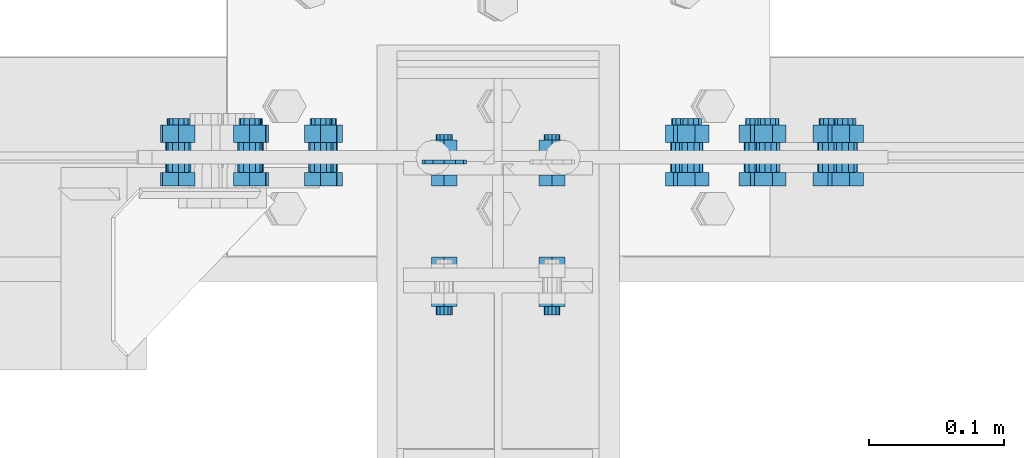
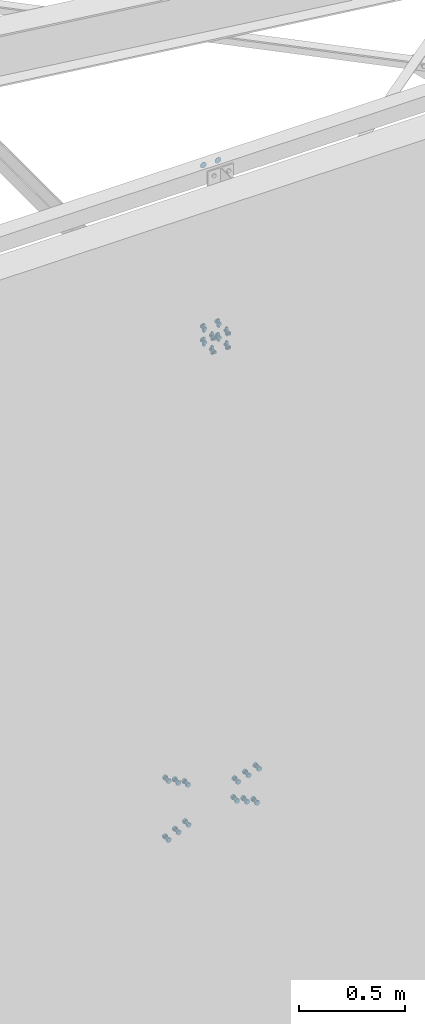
# One storey, part 120 of 3134: 7 mechanical fasteners, 7 elements without a shape of their own.
"""IFC2X3 building model written with IfcOpenShell, lengths in millimetres."""

import ifcopenshell
import ifcopenshell.guid

model = None  # the IFC model being written
_history = None  # IfcOwnerHistory: only IFC2X3 demands one
_inside = {}  # id of a spatial element -> (the spatial element, [elements in it])
_under = {}  # id of a project, library or spatial element -> (it, [spatial elements below it])
_declared = {}  # id of a project -> (the project, [libraries it declares])
_typed = {}  # id of a type object -> (the type object, [elements of that type])
_made_of = {}  # id of a material, layer set ... -> (it, [elements and type objects made of it])


def new_model(schema):
    """Start an empty IFC model of exactly this schema.

    Asked for "IFC4X3", IfcOpenShell would pick the latest addendum, in which some entities
    have other attributes; the version numbers below select the first issue.
    IFC2X3 requires an IfcOwnerHistory on every rooted entity: one is made here for all.
    """
    global model, _history
    if schema == "IFC4X3":
        model = ifcopenshell.file(schema_version=(4, 3, 0, 0))
    else:
        model = ifcopenshell.file(schema=schema)
    _inside.clear()
    _under.clear()
    _declared.clear()
    _typed.clear()
    _made_of.clear()
    _history = None
    if model.schema == "IFC2X3":
        org = make("IfcOrganization", Name="unknown")
        user = make(
            "IfcPersonAndOrganization",
            ThePerson=make("IfcPerson", FamilyName="unknown"),
            TheOrganization=org,
        )
        app = make(
            "IfcApplication",
            ApplicationDeveloper=org,
            Version="unknown",
            ApplicationFullName="unknown",
            ApplicationIdentifier="unknown",
        )
        _history = make(
            "IfcOwnerHistory",
            OwningUser=user,
            OwningApplication=app,
            ChangeAction="ADDED",
            CreationDate=0,
        )
    return model


def make(cls, **values):
    """One entity of the class cls with the attributes given. An attribute that is None is left unset."""
    return model.create_entity(
        cls, **{name: value for name, value in values.items() if value is not None}
    )


def rooted(cls, **values):
    """An entity with a GlobalId (a new one), such as an element, a storey or a relation."""
    return make(cls, GlobalId=ifcopenshell.guid.new(), OwnerHistory=_history, **values)


def si_unit(unit_type, name, prefix=None):
    """IfcSIUnit, for example si_unit("LENGTHUNIT", "METRE", prefix="MILLI")."""
    return make("IfcSIUnit", UnitType=unit_type, Prefix=prefix, Name=name)


def assignment(units):
    """IfcUnitAssignment: the units of a project."""
    return None if units is None else make("IfcUnitAssignment", Units=units)


def point(xyz):
    """IfcCartesianPoint."""
    return None if xyz is None else make("IfcCartesianPoint", Coordinates=xyz)


def direction(xyz):
    """IfcDirection."""
    return None if xyz is None else make("IfcDirection", DirectionRatios=xyz)


def frame(location, z_axis=None, x_axis=None):
    """IfcAxis2Placement3D, a coordinate frame: its origin and axes. An axis left out is left unset."""
    return make(
        "IfcAxis2Placement3D",
        Location=point(location),
        Axis=direction(z_axis),
        RefDirection=direction(x_axis),
    )


def origin_with_axes():
    """The frame at (0, 0, 0) with the z axis (0, 0, 1) and the x axis (1, 0, 0) written out."""
    return frame((0.0, 0.0, 0.0), z_axis=(0.0, 0.0, 1.0), x_axis=(1.0, 0.0, 0.0))


def place(relative_to, where):
    """IfcLocalPlacement: puts the frame where relative to a parent placement (None: the world)."""
    return make(
        "IfcLocalPlacement", PlacementRelTo=relative_to, RelativePlacement=where
    )


def context(
    kind, dimensions, precision=None, world=None, true_north=None, identifier=None
):
    """IfcGeometricRepresentationContext, for example the 3D "Model" context."""
    return make(
        "IfcGeometricRepresentationContext",
        ContextIdentifier=identifier,
        ContextType=kind,
        CoordinateSpaceDimension=dimensions,
        Precision=precision,
        WorldCoordinateSystem=world,
        TrueNorth=true_north,
    )


def subcontext(parent, identifier, kind, view, scale=None):
    """IfcGeometricRepresentationSubContext, for example "Body" below "Model"."""
    return make(
        "IfcGeometricRepresentationSubContext",
        ContextIdentifier=identifier,
        ContextType=kind,
        ParentContext=parent,
        TargetScale=scale,
        TargetView=view,
    )


def project(units=None, contexts=None):
    """IfcProject with its units and contexts."""
    return rooted(
        "IfcProject",
        Name="project",
        RepresentationContexts=contexts,
        UnitsInContext=assignment(units),
    )


def spatial(cls, under=None, at=None, **own):
    """A site, building, storey or space (cls), placed at a placement, below another one or the project."""
    s = rooted(cls, ObjectPlacement=at, **own)
    if under is not None:
        _under.setdefault(under.id(), (under, []))[1].append(s)
    return s


def faces_of(points, faces, orient=None, outer=None):
    """IfcFace entities. A face is a list of loops; a loop is a list of indices into points, from 0.

    orient and outer hold one flag for each loop. By default every Orientation is true, the
    first loop of a face is its IfcFaceOuterBound and the others are IfcFaceBound.
    """
    made = []
    for i, loops in enumerate(faces):
        bounds = []
        for j, loop in enumerate(loops):
            is_outer = j == 0 if outer is None else outer[i][j]
            bounds.append(
                make(
                    "IfcFaceOuterBound" if is_outer else "IfcFaceBound",
                    Bound=make("IfcPolyLoop", Polygon=[points[k] for k in loop]),
                    Orientation=True if orient is None else orient[i][j],
                )
            )
        made.append(make("IfcFace", Bounds=bounds))
    return made


def faceted_brep(points, faces, orient=None, outer=None, voids=None):
    """IfcFacetedBrep: a solid bounded by flat faces; with voids (closed shells), ...WithVoids."""
    shared = [point(p) for p in points]
    hull = make("IfcClosedShell", CfsFaces=faces_of(shared, faces, orient, outer))
    if voids is None:
        return make("IfcFacetedBrep", Outer=hull)
    return make(
        "IfcFacetedBrepWithVoids",
        Outer=hull,
        Voids=[
            make(cls, CfsFaces=faces_of(shared, fs, o, b)) for cls, fs, o, b in voids
        ],
    )


def shape(context_of_items, identifier, shape_type, items):
    """IfcShapeRepresentation: the items that make up one representation, for example the "Body"."""
    return make(
        "IfcShapeRepresentation",
        ContextOfItems=context_of_items,
        RepresentationIdentifier=identifier,
        RepresentationType=shape_type,
        Items=items,
    )


def source(mapping_origin, context_of_items, identifier, shape_type, items):
    """IfcRepresentationMap: a shape defined once, which mapped items show again and again."""
    return make(
        "IfcRepresentationMap",
        MappingOrigin=mapping_origin,
        MappedRepresentation=shape(context_of_items, identifier, shape_type, items),
    )


def transform(
    local_origin,
    x_axis=None,
    y_axis=None,
    z_axis=None,
    scale=None,
    scale2=None,
    scale3=None,
    uniform=True,
):
    """IfcCartesianTransformationOperator3D, or its non-uniform kind. x_axis, y_axis, z_axis: its Axis1, 2, 3."""
    if uniform:
        return make(
            "IfcCartesianTransformationOperator3D",
            Axis1=direction(x_axis),
            Axis2=direction(y_axis),
            LocalOrigin=point(local_origin),
            Scale=scale,
            Axis3=direction(z_axis),
        )
    return make(
        "IfcCartesianTransformationOperator3DnonUniform",
        Axis1=direction(x_axis),
        Axis2=direction(y_axis),
        LocalOrigin=point(local_origin),
        Scale=scale,
        Axis3=direction(z_axis),
        Scale2=scale2,
        Scale3=scale3,
    )


def mapped(mapping_source, mapping_target):
    """IfcMappedItem: shows the shape of a source again, moved by a transform."""
    return make(
        "IfcMappedItem", MappingSource=mapping_source, MappingTarget=mapping_target
    )


def material(Name=None, Category=None):
    """IfcMaterial."""
    return make("IfcMaterial", Name=Name, Category=Category)


def made_of(thing, what):
    """Note that an element or type object is made of a material, layer set ...; save() writes the relation."""
    if what is not None:
        _made_of.setdefault(what.id(), (what, []))[1].append(thing)
    return thing


def type_object(cls, material=None, **own):
    """A type object (cls), such as IfcWallType, which elements share."""
    return made_of(rooted(cls, **own), material)


def element(
    cls,
    number,
    at=None,
    inside=None,
    cuts=None,
    type_object=None,
    material=None,
    context=None,
    identifier="Body",
    shape_type=None,
    held_by="IfcProductDefinitionShape",
    body=None,
    shapes=None,
    **own,
):
    """One element of the class cls, such as IfcWall. Its Tag is "e" and its number.

    at: its placement. inside: the storey or other place that contains it. cuts: it is an
    opening in that element (IfcRelVoidsElement). A single representation is given by context,
    identifier, shape_type and body (its items); several are given by shapes. held_by: the class
    of the entity that holds the representations. save() writes the other relations.
    """
    e = rooted(cls, Tag="e%d" % number, ObjectPlacement=at, **own)
    if body is not None:
        shapes = [shape(context, identifier, shape_type, body)]
    if shapes is not None:
        e.Representation = make(held_by, Representations=shapes)
    if inside is not None:
        _inside.setdefault(inside.id(), (inside, []))[1].append(e)
    if cuts is not None:
        rooted(
            "IfcRelVoidsElement", RelatingBuildingElement=cuts, RelatedOpeningElement=e
        )
    if type_object is not None:
        _typed.setdefault(type_object.id(), (type_object, []))[1].append(e)
    return made_of(e, material)


def aggregate(whole, parts):
    """IfcRelAggregates: a whole, such as a stair, and the parts it consists of."""
    return rooted("IfcRelAggregates", RelatingObject=whole, RelatedObjects=parts)


def save(model, path):
    """Write the relations noted so far, then the file.

    IfcRelAggregates (storeys below a building ...), IfcRelContainedInSpatialStructure (elements
    in a storey), IfcRelDefinesByType, IfcRelAssociatesMaterial and IfcRelDeclares: one each for
    every whole, place, type object, material and project.
    """
    for whole, parts in _under.values():
        aggregate(whole, parts)
    for where, things in _inside.values():
        rooted(
            "IfcRelContainedInSpatialStructure",
            RelatedElements=things,
            RelatingStructure=where,
        )
    for kind, things in _typed.values():
        rooted("IfcRelDefinesByType", RelatedObjects=things, RelatingType=kind)
    for what, things in _made_of.values():
        rooted("IfcRelAssociatesMaterial", RelatedObjects=things, RelatingMaterial=what)
    for by, libraries in _declared.values():
        rooted("IfcRelDeclares", RelatingContext=by, RelatedDefinitions=libraries)
    model.write(path)


model = new_model("IFC2X3")

# Units and contexts
model_context = context("Model", 3, precision=1e-05, world=origin_with_axes())
body_context = subcontext(model_context, "Body", "Model", "MODEL_VIEW")
ifc_project = project(units=[si_unit("LENGTHUNIT", "METRE", prefix="MILLI"), si_unit("AREAUNIT", "SQUARE_METRE"), si_unit("VOLUMEUNIT", "CUBIC_METRE"), si_unit("MASSUNIT", "GRAM", prefix="KILO"), si_unit("TIMEUNIT", "SECOND"), si_unit("PLANEANGLEUNIT", "RADIAN"), si_unit("SOLIDANGLEUNIT", "STERADIAN"), si_unit("THERMODYNAMICTEMPERATUREUNIT", "DEGREE_CELSIUS"), si_unit("LUMINOUSINTENSITYUNIT", "LUMEN")], contexts=[model_context])

# Site, building, storey
site_placement = place(None, origin_with_axes())
site = spatial("IfcSite", under=ifc_project, at=site_placement, CompositionType="ELEMENT")
building_placement = place(site_placement, origin_with_axes())
building = spatial("IfcBuilding", under=site, at=building_placement, Name="Undefined", CompositionType="ELEMENT")
storey_placement = place(building_placement, origin_with_axes())
storey = spatial("IfcBuildingStorey", under=building, at=storey_placement, Name="Undefined", CompositionType="ELEMENT", Elevation=0.0)

# Assembly, mechanical fastener
assembly_1_placement = place(storey_placement, origin_with_axes())
assembly_1 = element("IfcElementAssembly", 1, at=assembly_1_placement, inside=storey, AssemblyPlace="NOTDEFINED", PredefinedType="RIGID_FRAME")
ifc_material = material(Name="8.8")
mechanical_fastener_type = type_object("IfcMechanicalFastenerType", Name="Bolt assembly")
shared_shape_1 = source(origin_with_axes(), body_context, "Body", "Brep", [
    faceted_brep([(16.5, -3.0, 0.0), (14.289419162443, -3.0, 8.25000000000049), (8.24999999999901, -3.0, 14.2894191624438), (-1.70995436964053e-12, -3.0, 16.5), (-8.25000000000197, -3.0, 14.2894191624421), (-14.2894191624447, -3.0, 8.24999999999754), (-16.5, -3.0, -3.41990873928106e-12), (-14.2894191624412, -3.0, -8.25000000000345), (-8.24999999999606, -3.0, -14.2894191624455), (5.11154442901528e-12, -3.0, -16.5), (8.25000000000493, -3.0, -14.2894191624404), (14.2894191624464, -3.0, -8.24999999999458), (14.2894191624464, 0.1, -8.24999999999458), (8.25000000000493, 0.1, -14.2894191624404), (5.11154442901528e-12, 0.1, -16.5), (-8.24999999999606, 0.1, -14.2894191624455), (-14.2894191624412, 0.1, -8.25000000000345), (-16.5, 0.1, -3.41990873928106e-12), (-14.2894191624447, 0.1, 8.24999999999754), (-8.25000000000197, 0.1, 14.2894191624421), (-1.70995436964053e-12, 0.1, 16.5), (8.24999999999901, 0.1, 14.2894191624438), (14.289419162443, 0.1, 8.25000000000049), (16.5, 0.1, 0.0)], [[[0, 1, 2, 3, 4, 5, 6, 7, 8, 9, 10, 11]], [[12, 13, 14, 15, 16, 17, 18, 19, 20, 21, 22, 23]], [[0, 23, 22, 1]], [[1, 22, 21, 2]], [[2, 21, 20, 3]], [[3, 20, 19, 4]], [[4, 19, 18, 5]], [[5, 18, 17, 6]], [[6, 17, 16, 7]], [[7, 16, 15, 8]], [[8, 15, 14, 9]], [[9, 14, 13, 10]], [[10, 13, 12, 11]], [[11, 12, 23, 0]]]),
])
mechanical_fastener_1_placement = place(assembly_1_placement, frame((50037.5, -2.0, 5934.99639945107), z_axis=(-1.0, 0.0, 0.0), x_axis=(0.0, 0.0, 1.0)))
mechanical_fastener_1 = element("IfcMechanicalFastener", 2, at=mechanical_fastener_1_placement, type_object=mechanical_fastener_type, material=ifc_material, Name="Bolt assembly", NominalDiameter=30.0, NominalLength=3.0, context=body_context, shape_type="MappedRepresentation", body=[
    mapped(shared_shape_1, transform((0.0, 0.0, -40.0))),
    mapped(shared_shape_1, transform((0.0, 0.0, 40.0))),
])
aggregate(assembly_1, [mechanical_fastener_1])

assembly_2_placement = place(storey_placement, origin_with_axes())
assembly_2 = element("IfcElementAssembly", 3, at=assembly_2_placement, inside=storey, Name="300", AssemblyPlace="NOTDEFINED", PredefinedType="RIGID_FRAME")
shared_shape_2 = source(origin_with_axes(), body_context, "Body", "Brep", [
    faceted_brep([(10.9696551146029, -21.0500000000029, 0.0), (5.48482755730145, -21.0500000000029, 9.5), (-5.48482755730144, -21.0500000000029, 9.5), (-10.9696551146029, -21.0500000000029, 1.34339530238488e-15), (-5.48482755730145, -21.0500000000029, -9.5), (5.48482755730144, -21.0500000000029, -9.50000000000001), (5.48482755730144, -13.0500000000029, -9.50000000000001), (-5.48482755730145, -13.0500000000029, -9.5), (-10.9696551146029, -13.0500000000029, 1.34339530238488e-15), (-5.48482755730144, -13.0500000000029, 9.5), (5.48482755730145, -13.0500000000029, 9.5), (10.9696551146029, -13.0500000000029, 0.0), (6.0, -13.0500000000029, 0.0), (5.19615242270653, -13.0500000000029, 3.00000000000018), (2.99999999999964, -13.0500000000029, 5.19615242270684), (-6.21801588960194e-13, -13.0500000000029, 6.0), (-3.00000000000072, -13.0500000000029, 5.19615242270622), (-5.19615242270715, -13.0500000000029, 2.9999999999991), (-6.0, -13.0500000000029, -1.24360317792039e-12), (-5.19615242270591, -13.0500000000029, -3.00000000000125), (-2.99999999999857, -13.0500000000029, -5.19615242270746), (1.85874342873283e-12, -13.0500000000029, -6.0), (3.00000000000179, -13.0500000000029, -5.1961524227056), (5.19615242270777, -13.0500000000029, -2.99999999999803), (5.19615242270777, 16.9499999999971, -2.99999999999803), (3.00000000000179, 16.9499999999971, -5.1961524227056), (1.85874342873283e-12, 16.9499999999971, -6.0), (-2.99999999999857, 16.9499999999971, -5.19615242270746), (-5.19615242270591, 16.9499999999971, -3.00000000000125), (-6.0, 16.9499999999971, -1.24360317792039e-12), (-5.19615242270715, 16.9499999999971, 2.9999999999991), (-3.00000000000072, 16.9499999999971, 5.19615242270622), (-6.21801588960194e-13, 16.9499999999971, 6.0), (2.99999999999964, 16.9499999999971, 5.19615242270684), (5.19615242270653, 16.9499999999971, 3.00000000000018), (6.0, 16.9499999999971, 0.0), (10.9696551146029, 3.04999995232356, 0.0), (5.48482755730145, 3.04999995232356, 9.5), (-5.48482755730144, 3.04999995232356, 9.5), (-10.9696551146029, 3.04999995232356, 1.34339530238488e-15), (-5.48482755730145, 3.04999995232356, -9.5), (5.48482755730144, 3.04999995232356, -9.50000000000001), (5.48482755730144, 13.0499999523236, -9.50000000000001), (-5.48482755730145, 13.0499999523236, -9.5), (-10.9696551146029, 13.0499999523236, 1.34339530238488e-15), (-5.48482755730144, 13.0499999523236, 9.5), (5.48482755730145, 13.0499999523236, 9.5), (10.9696551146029, 13.0499999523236, 0.0)], [[[0, 1, 2, 3, 4, 5]], [[6, 7, 8, 9, 10, 11]], [[0, 11, 10, 1]], [[1, 10, 9, 2]], [[2, 9, 8, 3]], [[3, 8, 7, 4]], [[4, 7, 6, 5]], [[5, 6, 11, 0]], [[12, 13, 14, 15, 16, 17, 18, 19, 20, 21, 22, 23]], [[24, 25, 26, 27, 28, 29, 30, 31, 32, 33, 34, 35]], [[12, 35, 34, 13]], [[13, 34, 33, 14]], [[14, 33, 32, 15]], [[15, 32, 31, 16]], [[16, 31, 30, 17]], [[17, 30, 29, 18]], [[18, 29, 28, 19]], [[19, 28, 27, 20]], [[20, 27, 26, 21]], [[21, 26, 25, 22]], [[22, 25, 24, 23]], [[23, 24, 35, 12]], [[36, 37, 38, 39, 40, 41]], [[42, 43, 44, 45, 46, 47]], [[36, 47, 46, 37]], [[37, 46, 45, 38]], [[38, 45, 44, 39]], [[39, 44, 43, 40]], [[40, 43, 42, 41]], [[41, 42, 47, 36]]]),
    faceted_brep([(26.0, -12.9500000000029, 0.0), (25.4671567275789, -12.9500000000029, 2.6787840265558), (23.9497474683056, -12.9500000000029, 4.94974746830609), (21.6787840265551, -12.9500000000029, 6.46715672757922), (-19.0000000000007, -12.9500000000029, 7.0), (-22.5000000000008, -12.9500000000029, 6.06217782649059), (-25.0621778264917, -12.9500000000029, 3.49999999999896), (-26.0, -12.9500000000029, -1.45087037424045e-12), (-25.0621778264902, -12.9500000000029, -3.50000000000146), (-22.4999999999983, -12.9500000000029, -6.06217782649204), (-18.9999999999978, -12.9500000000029, -7.0), (19.0000000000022, -12.9500000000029, -7.0), (22.5000000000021, -12.9500000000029, -6.06217782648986), (25.0621778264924, -12.9500000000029, -3.4999999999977), (26.0, -2.95000000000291, 0.0), (25.0621778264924, -2.95000000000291, -3.4999999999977), (22.5000000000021, -2.95000000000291, -6.06217782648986), (19.0000000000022, -2.95000000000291, -7.0), (-18.9999999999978, -2.95000000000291, -7.0), (-22.4999999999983, -2.95000000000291, -6.06217782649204), (-25.0621778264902, -2.95000000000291, -3.50000000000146), (-26.0, -2.95000000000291, -1.45087037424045e-12), (-25.0621778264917, -2.95000000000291, 3.49999999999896), (-22.5000000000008, -2.95000000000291, 6.06217782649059), (-19.0000000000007, -2.95000000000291, 7.0), (21.6787840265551, -2.95000000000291, 6.46715672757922), (23.9497474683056, -2.95000000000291, 4.94974746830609), (25.4671567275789, -2.95000000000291, 2.6787840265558), (7.0, -3.14999995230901, 0.0), (6.06217782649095, -3.14999995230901, 3.50000000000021), (3.49999999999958, -3.14999995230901, 6.06217782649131), (-7.25435187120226e-13, -3.14999995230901, 7.0), (-3.50000000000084, -3.14999995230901, 6.06217782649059), (-6.06217782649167, -3.14999995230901, 3.49999999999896), (-7.0, -3.14999995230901, -1.45087037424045e-12), (-6.06217782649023, -3.14999995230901, -3.50000000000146), (-3.49999999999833, -3.14999995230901, -6.06217782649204), (2.1685340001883e-12, -3.14999995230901, -7.0), (3.50000000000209, -3.14999995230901, -6.06217782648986), (6.0621778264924, -3.14999995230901, -3.4999999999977), (6.0621778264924, 3.04999995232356, -3.4999999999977), (3.50000000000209, 3.04999995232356, -6.06217782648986), (2.1685340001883e-12, 3.04999995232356, -7.0), (-3.49999999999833, 3.04999995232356, -6.06217782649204), (-6.06217782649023, 3.04999995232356, -3.50000000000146), (-7.0, 3.04999995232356, -1.45087037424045e-12), (-6.06217782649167, 3.04999995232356, 3.49999999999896), (-3.50000000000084, 3.04999995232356, 6.06217782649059), (-7.25435187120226e-13, 3.04999995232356, 7.0), (3.49999999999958, 3.04999995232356, 6.06217782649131), (6.06217782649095, 3.04999995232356, 3.50000000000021), (7.0, 3.04999995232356, 0.0)], [[[0, 1, 2, 3, 4, 5, 6, 7, 8, 9, 10, 11, 12, 13]], [[14, 15, 16, 17, 18, 19, 20, 21, 22, 23, 24, 25, 26, 27]], [[0, 14, 27, 1]], [[1, 27, 26, 2]], [[2, 26, 25, 3]], [[3, 25, 24, 4]], [[4, 24, 23, 5]], [[5, 23, 22, 6]], [[6, 22, 21, 7]], [[7, 21, 20, 8]], [[8, 20, 19, 9]], [[9, 19, 18, 10]], [[10, 18, 17, 11]], [[11, 17, 16, 12]], [[12, 16, 15, 13]], [[13, 15, 14, 0]], [[28, 29, 30, 31, 32, 33, 34, 35, 36, 37, 38, 39]], [[40, 41, 42, 43, 44, 45, 46, 47, 48, 49, 50, 51]], [[28, 51, 50, 29]], [[29, 50, 49, 30]], [[30, 49, 48, 31]], [[31, 48, 47, 32]], [[32, 47, 46, 33]], [[33, 46, 45, 34]], [[34, 45, 44, 35]], [[35, 44, 43, 36]], [[36, 43, 42, 37]], [[37, 42, 41, 38]], [[38, 41, 40, 39]], [[39, 40, 51, 28]]]),
])
mechanical_fastener_2_placement = place(assembly_2_placement, frame((50037.4999999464, 0.0, 4996.39642111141), z_axis=(1.0, 0.0, 0.0), x_axis=(0.0, 0.0, -1.0)))
mechanical_fastener_2 = element("IfcMechanicalFastener", 4, at=mechanical_fastener_2_placement, type_object=mechanical_fastener_type, material=ifc_material, Name="Bolt assembly", NominalDiameter=12.0, NominalLength=30.0, context=body_context, shape_type="MappedRepresentation", body=[
    mapped(shared_shape_2, transform((0.0, 0.0, -40.0))),
    mapped(shared_shape_2, transform((80.0, 0.0, -40.0))),
    mapped(shared_shape_2, transform((0.0, 0.0, 40.0))),
    mapped(shared_shape_2, transform((80.0, 0.0, 40.0))),
])
aggregate(assembly_2, [mechanical_fastener_2])

assembly_3_placement = place(storey_placement, origin_with_axes())
assembly_3 = element("IfcElementAssembly", 5, at=assembly_3_placement, inside=storey, AssemblyPlace="NOTDEFINED", PredefinedType="RIGID_FRAME")
shared_shape_3 = source(origin_with_axes(), body_context, "Body", "Brep", [
    faceted_brep([(10.9696551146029, -18.0, 0.0), (5.48482755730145, -18.0, 9.5), (-5.48482755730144, -18.0, 9.5), (-10.9696551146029, -18.0, 1.34339530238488e-15), (-5.48482755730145, -18.0, -9.5), (5.48482755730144, -18.0, -9.50000000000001), (5.48482755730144, -10.0, -9.50000000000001), (-5.48482755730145, -10.0, -9.5), (-10.9696551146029, -10.0, 1.34339530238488e-15), (-5.48482755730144, -10.0, 9.5), (5.48482755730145, -10.0, 9.5), (10.9696551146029, -10.0, 0.0), (6.0, -10.0, 0.0), (5.19615242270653, -10.0, 3.00000000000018), (2.99999999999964, -10.0, 5.19615242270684), (-6.21801588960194e-13, -10.0, 6.0), (-3.00000000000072, -10.0, 5.19615242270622), (-5.19615242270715, -10.0, 2.9999999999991), (-6.0, -10.0, -1.24360317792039e-12), (-5.19615242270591, -10.0, -3.00000000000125), (-2.99999999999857, -10.0, -5.19615242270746), (1.85874342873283e-12, -10.0, -6.0), (3.00000000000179, -10.0, -5.1961524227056), (5.19615242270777, -10.0, -2.99999999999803), (5.19615242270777, 24.9999999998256, -2.99999999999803), (3.00000000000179, 24.9999999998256, -5.1961524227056), (1.85874342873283e-12, 24.9999999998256, -6.0), (-2.99999999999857, 24.9999999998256, -5.19615242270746), (-5.19615242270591, 24.9999999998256, -3.00000000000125), (-6.0, 24.9999999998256, -1.24360317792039e-12), (-5.19615242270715, 24.9999999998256, 2.9999999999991), (-3.00000000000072, 24.9999999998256, 5.19615242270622), (-6.21801588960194e-13, 24.9999999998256, 6.0), (2.99999999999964, 24.9999999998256, 5.19615242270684), (5.19615242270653, 24.9999999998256, 3.00000000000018), (6.0, 24.9999999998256, 0.0), (10.9696551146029, 8.5, 0.0), (5.48482755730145, 8.5, 9.5), (-5.48482755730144, 8.5, 9.5), (-10.9696551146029, 8.5, 1.34339530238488e-15), (-5.48482755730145, 8.5, -9.5), (5.48482755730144, 8.5, -9.50000000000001), (5.48482755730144, 18.5, -9.50000000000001), (-5.48482755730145, 18.5, -9.5), (-10.9696551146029, 18.5, 1.34339530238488e-15), (-5.48482755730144, 18.5, 9.5), (5.48482755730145, 18.5, 9.5), (10.9696551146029, 18.5, 0.0)], [[[0, 1, 2, 3, 4, 5]], [[6, 7, 8, 9, 10, 11]], [[0, 11, 10, 1]], [[1, 10, 9, 2]], [[2, 9, 8, 3]], [[3, 8, 7, 4]], [[4, 7, 6, 5]], [[5, 6, 11, 0]], [[12, 13, 14, 15, 16, 17, 18, 19, 20, 21, 22, 23]], [[24, 25, 26, 27, 28, 29, 30, 31, 32, 33, 34, 35]], [[12, 35, 34, 13]], [[13, 34, 33, 14]], [[14, 33, 32, 15]], [[15, 32, 31, 16]], [[16, 31, 30, 17]], [[17, 30, 29, 18]], [[18, 29, 28, 19]], [[19, 28, 27, 20]], [[20, 27, 26, 21]], [[21, 26, 25, 22]], [[22, 25, 24, 23]], [[23, 24, 35, 12]], [[36, 37, 38, 39, 40, 41]], [[42, 43, 44, 45, 46, 47]], [[36, 47, 46, 37]], [[37, 46, 45, 38]], [[38, 45, 44, 39]], [[39, 44, 43, 40]], [[40, 43, 42, 41]], [[41, 42, 47, 36]]]),
    faceted_brep([(7.0, -0.1, 0.0), (6.06217782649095, -0.1, 3.50000000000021), (3.49999999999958, -0.1, 6.06217782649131), (-7.25435187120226e-13, -0.1, 7.0), (-3.50000000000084, -0.1, 6.06217782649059), (-6.06217782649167, -0.1, 3.49999999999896), (-7.0, -0.1, -1.45087037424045e-12), (-6.06217782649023, -0.1, -3.50000000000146), (-3.49999999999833, -0.1, -6.06217782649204), (2.1685340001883e-12, -0.1, -7.0), (3.50000000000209, -0.1, -6.06217782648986), (6.0621778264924, -0.1, -3.4999999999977), (6.0621778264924, 8.5, -3.4999999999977), (3.50000000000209, 8.5, -6.06217782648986), (2.1685340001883e-12, 8.5, -7.0), (-3.49999999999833, 8.5, -6.06217782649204), (-6.06217782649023, 8.5, -3.50000000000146), (-7.0, 8.5, -1.45087037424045e-12), (-6.06217782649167, 8.5, 3.49999999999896), (-3.50000000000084, 8.5, 6.06217782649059), (-7.25435187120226e-13, 8.5, 7.0), (3.49999999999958, 8.5, 6.06217782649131), (6.06217782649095, 8.5, 3.50000000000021), (7.0, 8.5, 0.0), (26.0, -9.9, 0.0), (25.4671567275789, -9.9, 2.6787840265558), (23.9497474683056, -9.9, 4.94974746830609), (21.6787840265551, -9.9, 6.46715672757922), (-19.0000000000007, -9.9, 7.0), (-22.5000000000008, -9.9, 6.06217782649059), (-25.0621778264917, -9.9, 3.49999999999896), (-26.0, -9.9, -1.45087037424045e-12), (-25.0621778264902, -9.9, -3.50000000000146), (-22.4999999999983, -9.9, -6.06217782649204), (-18.9999999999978, -9.9, -7.0), (19.0000000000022, -9.9, -7.0), (22.5000000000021, -9.9, -6.06217782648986), (25.0621778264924, -9.9, -3.4999999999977), (26.0, 0.0999999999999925, 0.0), (25.0621778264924, 0.0999999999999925, -3.4999999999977), (22.5000000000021, 0.0999999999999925, -6.06217782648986), (19.0000000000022, 0.0999999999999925, -7.0), (-18.9999999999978, 0.0999999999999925, -7.0), (-22.4999999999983, 0.0999999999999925, -6.06217782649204), (-25.0621778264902, 0.0999999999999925, -3.50000000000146), (-26.0, 0.0999999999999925, -1.45087037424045e-12), (-25.0621778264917, 0.0999999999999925, 3.49999999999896), (-22.5000000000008, 0.0999999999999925, 6.06217782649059), (-19.0000000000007, 0.0999999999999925, 7.0), (21.6787840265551, 0.0999999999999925, 6.46715672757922), (23.9497474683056, 0.0999999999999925, 4.94974746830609), (25.4671567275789, 0.0999999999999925, 2.6787840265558)], [[[0, 1, 2, 3, 4, 5, 6, 7, 8, 9, 10, 11]], [[12, 13, 14, 15, 16, 17, 18, 19, 20, 21, 22, 23]], [[0, 23, 22, 1]], [[1, 22, 21, 2]], [[2, 21, 20, 3]], [[3, 20, 19, 4]], [[4, 19, 18, 5]], [[5, 18, 17, 6]], [[6, 17, 16, 7]], [[7, 16, 15, 8]], [[8, 15, 14, 9]], [[9, 14, 13, 10]], [[10, 13, 12, 11]], [[11, 12, 23, 0]], [[24, 25, 26, 27, 28, 29, 30, 31, 32, 33, 34, 35, 36, 37]], [[38, 39, 40, 41, 42, 43, 44, 45, 46, 47, 48, 49, 50, 51]], [[24, 38, 51, 25]], [[25, 51, 50, 26]], [[26, 50, 49, 27]], [[27, 49, 48, 28]], [[28, 48, 47, 29]], [[29, 47, 46, 30]], [[30, 46, 45, 31]], [[31, 45, 44, 32]], [[32, 44, 43, 33]], [[33, 43, 42, 34]], [[34, 42, 41, 35]], [[35, 41, 40, 36]], [[36, 40, 39, 37]], [[37, 39, 38, 24]]]),
])
mechanical_fastener_3_placement = place(assembly_3_placement, frame((50037.4999999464, -92.0, 4996.39642111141), z_axis=(-1.0, 0.0, 0.0), x_axis=(0.0, 0.0, -1.0)))
mechanical_fastener_3 = element("IfcMechanicalFastener", 6, at=mechanical_fastener_3_placement, type_object=mechanical_fastener_type, material=ifc_material, Name="Bolt assembly", NominalDiameter=12.0, NominalLength=35.0, context=body_context, shape_type="MappedRepresentation", body=[
    mapped(shared_shape_3, transform((0.0, 0.0, -40.0))),
    mapped(shared_shape_3, transform((80.0, 0.0, -40.0))),
    mapped(shared_shape_3, transform((0.0, 0.0, 40.0))),
    mapped(shared_shape_3, transform((80.0, 0.0, 40.0))),
])
aggregate(assembly_3, [mechanical_fastener_3])

assembly_4_placement = place(storey_placement, origin_with_axes())
assembly_4 = element("IfcElementAssembly", 7, at=assembly_4_placement, inside=storey, AssemblyPlace="NOTDEFINED", PredefinedType="RIGID_FRAME")
shared_shape_4 = source(origin_with_axes(), body_context, "Body", "Brep", [
    faceted_brep([(13.856406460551, -21.0000017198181, 0.0), (6.92820323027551, -21.0000017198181, 12.0), (-6.92820323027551, -21.0000017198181, 12.0), (-13.856406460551, -21.0000017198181, 1.69692038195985e-15), (-6.92820323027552, -21.0000017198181, -12.0), (6.9282032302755, -21.0000017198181, -12.0), (6.9282032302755, -11.0000017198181, -12.0), (-6.92820323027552, -11.0000017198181, -12.0), (-13.856406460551, -11.0000017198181, 1.69692038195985e-15), (-6.92820323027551, -11.0000017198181, 12.0), (6.92820323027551, -11.0000017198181, 12.0), (13.856406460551, -11.0000017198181, 0.0), (8.0, -11.0000017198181, 0.0), (6.92820323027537, -11.0000017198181, 4.00000000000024), (3.99999999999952, -11.0000017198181, 6.92820323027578), (-8.29068785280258e-13, -11.0000017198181, 8.0), (-4.00000000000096, -11.0000017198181, 6.92820323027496), (-6.9282032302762, -11.0000017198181, 3.99999999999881), (-8.0, -11.0000017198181, -1.65813757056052e-12), (-6.92820323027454, -11.0000017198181, -4.00000000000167), (-3.99999999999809, -11.0000017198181, -6.92820323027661), (2.47832457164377e-12, -11.0000017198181, -8.0), (4.00000000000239, -11.0000017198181, -6.92820323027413), (6.92820323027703, -11.0000017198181, -3.99999999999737), (6.92820323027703, 29.0, -3.99999999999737), (4.00000000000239, 29.0, -6.92820323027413), (2.47832457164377e-12, 29.0, -8.0), (-3.99999999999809, 29.0, -6.92820323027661), (-6.92820323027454, 29.0, -4.00000000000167), (-8.0, 29.0, -1.65813757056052e-12), (-6.9282032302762, 29.0, 3.99999999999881), (-4.00000000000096, 29.0, 6.92820323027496), (-8.29068785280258e-13, 29.0, 8.0), (3.99999999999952, 29.0, 6.92820323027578), (6.92820323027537, 29.0, 4.00000000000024), (8.0, 29.0, 0.0), (13.856406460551, 10.9999982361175, 0.0), (6.92820323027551, 10.9999982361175, 12.0), (-6.92820323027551, 10.9999982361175, 12.0), (-13.856406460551, 10.9999982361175, 1.69692038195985e-15), (-6.92820323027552, 10.9999982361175, -12.0), (6.9282032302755, 10.9999982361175, -12.0), (6.9282032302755, 23.9999999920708, -12.0), (-6.92820323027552, 23.9999999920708, -12.0), (-13.856406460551, 23.9999999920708, 1.69692038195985e-15), (-6.92820323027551, 23.9999999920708, 12.0), (6.92820323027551, 23.9999999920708, 12.0), (13.856406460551, 23.9999999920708, 0.0)], [[[0, 1, 2, 3, 4, 5]], [[6, 7, 8, 9, 10, 11]], [[0, 11, 10, 1]], [[1, 10, 9, 2]], [[2, 9, 8, 3]], [[3, 8, 7, 4]], [[4, 7, 6, 5]], [[5, 6, 11, 0]], [[12, 13, 14, 15, 16, 17, 18, 19, 20, 21, 22, 23]], [[24, 25, 26, 27, 28, 29, 30, 31, 32, 33, 34, 35]], [[12, 35, 34, 13]], [[13, 34, 33, 14]], [[14, 33, 32, 15]], [[15, 32, 31, 16]], [[16, 31, 30, 17]], [[17, 30, 29, 18]], [[18, 29, 28, 19]], [[19, 28, 27, 20]], [[20, 27, 26, 21]], [[21, 26, 25, 22]], [[22, 25, 24, 23]], [[23, 24, 35, 12]], [[36, 37, 38, 39, 40, 41]], [[42, 43, 44, 45, 46, 47]], [[36, 47, 46, 37]], [[37, 46, 45, 38]], [[38, 45, 44, 39]], [[39, 44, 43, 40]], [[40, 43, 42, 41]], [[41, 42, 47, 36]]]),
    faceted_brep([(9.0, -10.9000017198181, 0.0), (7.79422863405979, -10.9000017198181, 4.50000000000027), (4.49999999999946, -10.9000017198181, 7.79422863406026), (-9.3270238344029e-13, -10.9000017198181, 9.0), (-4.50000000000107, -10.9000017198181, 7.79422863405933), (-7.79422863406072, -10.9000017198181, 4.49999999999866), (-9.0, -10.9000017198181, -1.86540476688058e-12), (-7.79422863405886, -10.9000017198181, -4.50000000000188), (-4.49999999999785, -10.9000017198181, -7.79422863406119), (2.78811514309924e-12, -10.9000017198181, -9.0), (4.50000000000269, -10.9000017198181, -7.7942286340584), (7.79422863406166, -10.9000017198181, -4.49999999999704), (7.79422863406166, -3.9, -4.49999999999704), (4.50000000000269, -3.9, -7.7942286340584), (2.78811514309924e-12, -3.9, -9.0), (-4.49999999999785, -3.9, -7.79422863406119), (-7.79422863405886, -3.9, -4.50000000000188), (-9.0, -3.9, -1.86540476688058e-12), (-7.79422863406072, -3.9, 4.49999999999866), (-4.50000000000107, -3.9, 7.79422863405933), (-9.3270238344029e-13, -3.9, 9.0), (4.49999999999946, -3.9, 7.79422863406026), (7.79422863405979, -3.9, 4.50000000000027), (9.0, -3.9, 0.0), (9.0, 3.9, 0.0), (7.79422863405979, 3.9, 4.50000000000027), (4.49999999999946, 3.9, 7.79422863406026), (-9.3270238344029e-13, 3.9, 9.0), (-4.50000000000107, 3.9, 7.79422863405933), (-7.79422863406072, 3.9, 4.49999999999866), (-9.0, 3.9, -1.86540476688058e-12), (-7.79422863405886, 3.9, -4.50000000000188), (-4.49999999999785, 3.9, -7.79422863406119), (2.78811514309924e-12, 3.9, -9.0), (4.50000000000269, 3.9, -7.7942286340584), (7.79422863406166, 3.9, -4.49999999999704), (7.79422863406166, 10.9999982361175, -4.49999999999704), (4.50000000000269, 10.9999982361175, -7.7942286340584), (2.78811514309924e-12, 10.9999982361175, -9.0), (-4.49999999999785, 10.9999982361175, -7.79422863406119), (-7.79422863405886, 10.9999982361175, -4.50000000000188), (-9.0, 10.9999982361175, -1.86540476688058e-12), (-7.79422863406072, 10.9999982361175, 4.49999999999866), (-4.50000000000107, 10.9999982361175, 7.79422863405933), (-9.3270238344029e-13, 10.9999982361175, 9.0), (4.49999999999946, 10.9999982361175, 7.79422863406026), (7.79422863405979, 10.9999982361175, 4.50000000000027), (9.0, 10.9999982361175, 0.0), (9.0, -4.99999990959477, 0.0), (7.79422863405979, -4.99999990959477, 4.50000000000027), (4.49999999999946, -4.99999990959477, 7.79422863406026), (-9.3270238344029e-13, -4.99999990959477, 9.0), (-4.50000000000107, -4.99999990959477, 7.79422863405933), (-7.79422863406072, -4.99999990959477, 4.49999999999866), (-9.0, -4.99999990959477, -1.86540476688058e-12), (-7.79422863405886, -4.99999990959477, -4.50000000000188), (-4.49999999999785, -4.99999990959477, -7.79422863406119), (2.78811514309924e-12, -4.99999990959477, -9.0), (4.50000000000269, -4.99999990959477, -7.7942286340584), (7.79422863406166, -4.99999990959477, -4.49999999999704), (7.79422863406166, 4.99999989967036, -4.49999999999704), (4.50000000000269, 4.99999989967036, -7.7942286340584), (2.78811514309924e-12, 4.99999989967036, -9.0), (-4.49999999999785, 4.99999989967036, -7.79422863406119), (-7.79422863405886, 4.99999989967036, -4.50000000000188), (-9.0, 4.99999989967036, -1.86540476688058e-12), (-7.79422863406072, 4.99999989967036, 4.49999999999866), (-4.50000000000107, 4.99999989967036, 7.79422863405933), (-9.3270238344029e-13, 4.99999989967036, 9.0), (4.49999999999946, 4.99999989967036, 7.79422863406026), (7.79422863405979, 4.99999989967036, 4.50000000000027), (9.0, 4.99999989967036, 0.0)], [[[0, 1, 2, 3, 4, 5, 6, 7, 8, 9, 10, 11]], [[12, 13, 14, 15, 16, 17, 18, 19, 20, 21, 22, 23]], [[0, 23, 22, 1]], [[1, 22, 21, 2]], [[2, 21, 20, 3]], [[3, 20, 19, 4]], [[4, 19, 18, 5]], [[5, 18, 17, 6]], [[6, 17, 16, 7]], [[7, 16, 15, 8]], [[8, 15, 14, 9]], [[9, 14, 13, 10]], [[10, 13, 12, 11]], [[11, 12, 23, 0]], [[24, 25, 26, 27, 28, 29, 30, 31, 32, 33, 34, 35]], [[36, 37, 38, 39, 40, 41, 42, 43, 44, 45, 46, 47]], [[24, 47, 46, 25]], [[25, 46, 45, 26]], [[26, 45, 44, 27]], [[27, 44, 43, 28]], [[28, 43, 42, 29]], [[29, 42, 41, 30]], [[30, 41, 40, 31]], [[31, 40, 39, 32]], [[32, 39, 38, 33]], [[33, 38, 37, 34]], [[34, 37, 36, 35]], [[35, 36, 47, 24]], [[48, 49, 50, 51, 52, 53, 54, 55, 56, 57, 58, 59]], [[60, 61, 62, 63, 64, 65, 66, 67, 68, 69, 70, 71]], [[48, 71, 70, 49]], [[49, 70, 69, 50]], [[50, 69, 68, 51]], [[51, 68, 67, 52]], [[52, 67, 66, 53]], [[53, 66, 65, 54]], [[54, 65, 64, 55]], [[55, 64, 63, 56]], [[56, 63, 62, 57]], [[57, 62, 61, 58]], [[58, 61, 60, 59]], [[59, 60, 71, 48]]]),
])
mechanical_fastener_4_placement = place(assembly_4_placement, frame((50174.1608453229, 0.0, 2204.54455813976), z_axis=(0.412246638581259, 0.0, 0.911072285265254), x_axis=(0.911072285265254, 0.0, -0.412246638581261)))
mechanical_fastener_4 = element("IfcMechanicalFastener", 8, at=mechanical_fastener_4_placement, type_object=mechanical_fastener_type, material=ifc_material, Name="Bolt assembly", NominalDiameter=16.0, NominalLength=40.0, context=body_context, shape_type="MappedRepresentation", body=[
    mapped(shared_shape_4, transform((0.0, 0.0, 0.0))),
    mapped(shared_shape_4, transform((59.9999999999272, 0.0, 5.40239852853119e-10))),
    mapped(shared_shape_4, transform((120.0, 0.0, 0.0))),
])
aggregate(assembly_4, [mechanical_fastener_4])

assembly_5_placement = place(storey_placement, origin_with_axes())
assembly_5 = element("IfcElementAssembly", 9, at=assembly_5_placement, inside=storey, AssemblyPlace="NOTDEFINED", PredefinedType="RIGID_FRAME")
mechanical_fastener_5_placement = place(assembly_5_placement, frame((50180.6778444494, 0.0, 2311.10408123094), z_axis=(-0.298150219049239, 0.0, 0.954518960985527), x_axis=(0.954518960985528, 0.0, 0.298150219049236)))
mechanical_fastener_5 = element("IfcMechanicalFastener", 10, at=mechanical_fastener_5_placement, type_object=mechanical_fastener_type, material=ifc_material, Name="Bolt assembly", NominalDiameter=16.0, NominalLength=40.0, context=body_context, shape_type="MappedRepresentation", body=[
    mapped(shared_shape_4, transform((0.0, 0.0, 0.0))),
    mapped(shared_shape_4, transform((59.9999999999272, 0.0, 5.40239852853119e-10))),
    mapped(shared_shape_4, transform((120.0, 0.0, 0.0))),
])
aggregate(assembly_5, [mechanical_fastener_5])

assembly_6_placement = place(storey_placement, origin_with_axes())
assembly_6 = element("IfcElementAssembly", 11, at=assembly_6_placement, inside=storey, AssemblyPlace="NOTDEFINED", PredefinedType="RIGID_FRAME")
mechanical_fastener_6_placement = place(assembly_6_placement, frame((49799.8251006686, 0.0, 2108.47054281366), z_axis=(-0.405410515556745, 0.0, 0.914134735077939), x_axis=(0.91413473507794, 0.0, 0.405410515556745)))
mechanical_fastener_6 = element("IfcMechanicalFastener", 12, at=mechanical_fastener_6_placement, type_object=mechanical_fastener_type, material=ifc_material, Name="Bolt assembly", NominalDiameter=16.0, NominalLength=40.0, context=body_context, shape_type="MappedRepresentation", body=[
    mapped(shared_shape_4, transform((0.0, 0.0, 0.0))),
    mapped(shared_shape_4, transform((59.9999999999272, 0.0, 5.40239852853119e-10))),
    mapped(shared_shape_4, transform((120.0, 0.0, 0.0))),
])
aggregate(assembly_6, [mechanical_fastener_6])

assembly_7_placement = place(storey_placement, origin_with_axes())
assembly_7 = element("IfcElementAssembly", 13, at=assembly_7_placement, inside=storey, AssemblyPlace="NOTDEFINED", PredefinedType="RIGID_FRAME")
mechanical_fastener_7_placement = place(assembly_7_placement, frame((49800.684354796, 0.0, 2448.57615716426), z_axis=(0.480340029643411, 0.0, 0.877082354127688), x_axis=(0.877082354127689, 0.0, -0.480340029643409)))
mechanical_fastener_7 = element("IfcMechanicalFastener", 14, at=mechanical_fastener_7_placement, type_object=mechanical_fastener_type, material=ifc_material, Name="Bolt assembly", NominalDiameter=16.0, NominalLength=40.0, context=body_context, shape_type="MappedRepresentation", body=[
    mapped(shared_shape_4, transform((0.0, 0.0, 0.0))),
    mapped(shared_shape_4, transform((59.9999999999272, 0.0, 5.40239852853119e-10))),
    mapped(shared_shape_4, transform((120.0, 0.0, 0.0))),
])
aggregate(assembly_7, [mechanical_fastener_7])

save(model, "model.ifc")
